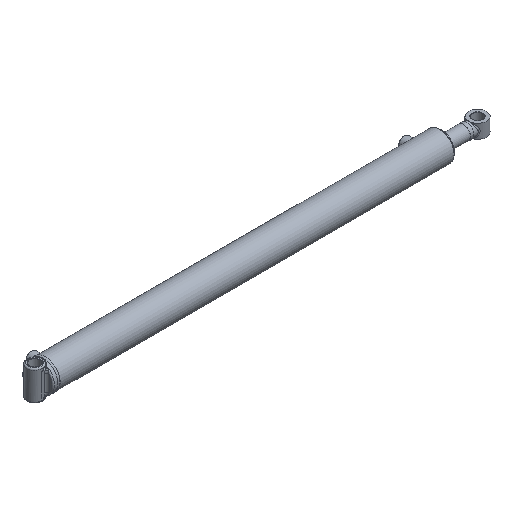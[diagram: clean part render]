
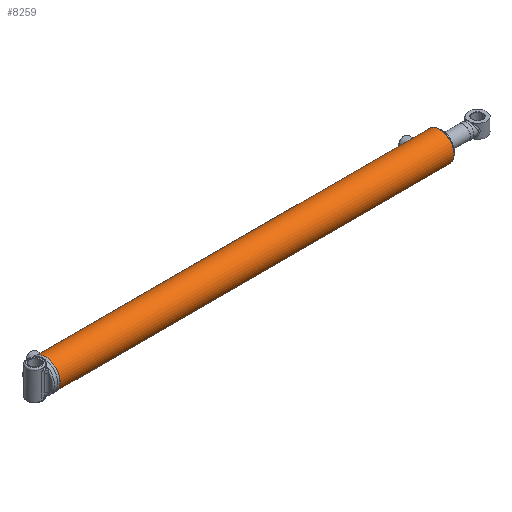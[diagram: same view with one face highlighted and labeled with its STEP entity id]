
A CAD part, isometric view. The second image highlights one B-rep face of the part: STEP entity #8259.
In plain terms, the highlighted cylindrical face has radius 36.513 mm (diameter 73.025 mm), a full revolution.
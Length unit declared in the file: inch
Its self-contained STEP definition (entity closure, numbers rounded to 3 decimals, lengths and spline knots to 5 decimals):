
#713=B_SPLINE_CURVE_WITH_KNOTS('',3,(#12235,#12236,#12237,#12238,#12239,
#12240,#12241,#12242,#12243,#12244),.UNSPECIFIED.,.F.,.F.,(4,2,2,2,4),(0.,
0.17962,0.35924,0.53885,0.71847),
 .UNSPECIFIED.);
#714=B_SPLINE_CURVE_WITH_KNOTS('',3,(#12245,#12246,#12247,#12248,#12249,
#12250,#12251,#12252,#12253,#12254,#12255,#12256,#12257,#12258,#12259,#12260,
#12261,#12262,#12263,#12264,#12265,#12266,#12267,#12268,#12269,#12270),
 .UNSPECIFIED.,.F.,.F.,(4,2,2,2,2,2,2,2,2,2,2,2,4),(0.71847,0.89808,
1.0777,1.25732,1.43694,1.61655,1.79617,
1.97579,2.1554,2.33502,2.51464,2.69425,
2.87387),.UNSPECIFIED.);
#715=B_SPLINE_CURVE_WITH_KNOTS('',3,(#12275,#12276,#12277,#12278,#12279,
#12280,#12281,#12282,#12283,#12284),.UNSPECIFIED.,.F.,.F.,(4,2,2,2,4),(0.,
0.17962,0.35924,0.53885,0.71847),
 .UNSPECIFIED.);
#716=B_SPLINE_CURVE_WITH_KNOTS('',3,(#12285,#12286,#12287,#12288,#12289,
#12290,#12291,#12292,#12293,#12294,#12295,#12296,#12297,#12298,#12299,#12300,
#12301,#12302,#12303,#12304,#12305,#12306,#12307,#12308,#12309,#12310),
 .UNSPECIFIED.,.F.,.F.,(4,2,2,2,2,2,2,2,2,2,2,2,4),(0.71847,0.89808,
1.0777,1.25732,1.43694,1.61655,1.79617,
1.97579,2.1554,2.33502,2.51464,2.69425,
2.87387),.UNSPECIFIED.);
#1063=FACE_BOUND('',#2630,.T.);
#1064=FACE_BOUND('',#2631,.T.);
#1342=LINE('',#12338,#1685);
#1685=VECTOR('',#10083,1.4375);
#2025=CYLINDRICAL_SURFACE('',#9126,1.4375);
#2115=FACE_OUTER_BOUND('',#2629,.T.);
#2629=EDGE_LOOP('',(#5794,#5795,#5796,#5797,#5798,#5799));
#2630=EDGE_LOOP('',(#5800,#5801));
#2631=EDGE_LOOP('',(#5802,#5803));
#3228=CIRCLE('',#9123,1.4375);
#3230=CIRCLE('',#9125,1.4375);
#3231=CIRCLE('',#9127,1.4375);
#3232=CIRCLE('',#9128,1.4375);
#3701=VERTEX_POINT('',#12232);
#3702=VERTEX_POINT('',#12234);
#3703=VERTEX_POINT('',#12272);
#3704=VERTEX_POINT('',#12274);
#3711=VERTEX_POINT('',#12331);
#3712=VERTEX_POINT('',#12332);
#3713=VERTEX_POINT('',#12337);
#3714=VERTEX_POINT('',#12339);
#4507=EDGE_CURVE('',#3702,#3701,#713,.T.);
#4508=EDGE_CURVE('',#3701,#3702,#714,.T.);
#4510=EDGE_CURVE('',#3704,#3703,#715,.T.);
#4511=EDGE_CURVE('',#3703,#3704,#716,.T.);
#4521=EDGE_CURVE('',#3711,#3712,#3228,.T.);
#4523=EDGE_CURVE('',#3712,#3711,#3230,.T.);
#4524=EDGE_CURVE('',#3711,#3713,#1342,.T.);
#4525=EDGE_CURVE('',#3714,#3713,#3231,.T.);
#4526=EDGE_CURVE('',#3713,#3714,#3232,.T.);
#5794=ORIENTED_EDGE('',*,*,#4521,.F.);
#5795=ORIENTED_EDGE('',*,*,#4524,.T.);
#5796=ORIENTED_EDGE('',*,*,#4525,.F.);
#5797=ORIENTED_EDGE('',*,*,#4526,.F.);
#5798=ORIENTED_EDGE('',*,*,#4524,.F.);
#5799=ORIENTED_EDGE('',*,*,#4523,.F.);
#5800=ORIENTED_EDGE('',*,*,#4507,.T.);
#5801=ORIENTED_EDGE('',*,*,#4508,.T.);
#5802=ORIENTED_EDGE('',*,*,#4510,.T.);
#5803=ORIENTED_EDGE('',*,*,#4511,.T.);
#8259=ADVANCED_FACE('',(#2115,#1063,#1064),#2025,.T.);
#9123=AXIS2_PLACEMENT_3D('',#12333,#10075,#10076);
#9125=AXIS2_PLACEMENT_3D('',#12335,#10079,#10080);
#9126=AXIS2_PLACEMENT_3D('',#12336,#10081,#10082);
#9127=AXIS2_PLACEMENT_3D('',#12340,#10084,#10085);
#9128=AXIS2_PLACEMENT_3D('',#12341,#10086,#10087);
#10075=DIRECTION('center_axis',(1.,0.,0.));
#10076=DIRECTION('ref_axis',(0.,-1.,0.));
#10079=DIRECTION('center_axis',(1.,0.,0.));
#10080=DIRECTION('ref_axis',(0.,-1.,0.));
#10081=DIRECTION('center_axis',(1.,0.,0.));
#10082=DIRECTION('ref_axis',(0.,-1.,0.));
#10083=DIRECTION('',(-1.,0.,0.));
#10084=DIRECTION('center_axis',(-1.,0.,0.));
#10085=DIRECTION('ref_axis',(0.,-1.,0.));
#10086=DIRECTION('center_axis',(-1.,0.,0.));
#10087=DIRECTION('ref_axis',(0.,-1.,0.));
#12232=CARTESIAN_POINT('',(0.5925,0.,1.4375));
#12234=CARTESIAN_POINT('',(0.78,-0.1875,1.42522));
#12235=CARTESIAN_POINT('Ctrl Pts',(0.78,-0.1875,1.42522));
#12236=CARTESIAN_POINT('Ctrl Pts',(0.75643,-0.1875,1.42522));
#12237=CARTESIAN_POINT('Ctrl Pts',(0.7313,-0.18278,
1.42586));
#12238=CARTESIAN_POINT('Ctrl Pts',(0.68512,-0.16364,
1.42819));
#12239=CARTESIAN_POINT('Ctrl Pts',(0.66405,-0.14921,
1.42983));
#12240=CARTESIAN_POINT('Ctrl Pts',(0.63079,-0.11595,
1.43291));
#12241=CARTESIAN_POINT('Ctrl Pts',(0.61636,-0.09488,
1.43455));
#12242=CARTESIAN_POINT('Ctrl Pts',(0.59722,-0.0487,
1.43686));
#12243=CARTESIAN_POINT('Ctrl Pts',(0.5925,-0.02357,1.4375));
#12244=CARTESIAN_POINT('Ctrl Pts',(0.5925,0.,1.4375));
#12245=CARTESIAN_POINT('Ctrl Pts',(0.5925,0.,1.4375));
#12246=CARTESIAN_POINT('Ctrl Pts',(0.5925,0.02357,1.4375));
#12247=CARTESIAN_POINT('Ctrl Pts',(0.59722,0.0487,
1.43686));
#12248=CARTESIAN_POINT('Ctrl Pts',(0.61636,0.09488,
1.43455));
#12249=CARTESIAN_POINT('Ctrl Pts',(0.63079,0.11595,
1.43291));
#12250=CARTESIAN_POINT('Ctrl Pts',(0.66405,0.14921,
1.42983));
#12251=CARTESIAN_POINT('Ctrl Pts',(0.68512,0.16364,
1.42819));
#12252=CARTESIAN_POINT('Ctrl Pts',(0.7313,0.18278,
1.42586));
#12253=CARTESIAN_POINT('Ctrl Pts',(0.75643,0.1875,1.42522));
#12254=CARTESIAN_POINT('Ctrl Pts',(0.80357,0.1875,1.42522));
#12255=CARTESIAN_POINT('Ctrl Pts',(0.8287,0.18278,
1.42586));
#12256=CARTESIAN_POINT('Ctrl Pts',(0.87488,0.16364,
1.42819));
#12257=CARTESIAN_POINT('Ctrl Pts',(0.89595,0.14921,
1.42983));
#12258=CARTESIAN_POINT('Ctrl Pts',(0.92921,0.11595,
1.43291));
#12259=CARTESIAN_POINT('Ctrl Pts',(0.94364,0.09488,
1.43455));
#12260=CARTESIAN_POINT('Ctrl Pts',(0.96278,0.0487,
1.43686));
#12261=CARTESIAN_POINT('Ctrl Pts',(0.9675,0.02357,1.4375));
#12262=CARTESIAN_POINT('Ctrl Pts',(0.9675,-0.02357,1.4375));
#12263=CARTESIAN_POINT('Ctrl Pts',(0.96278,-0.0487,
1.43686));
#12264=CARTESIAN_POINT('Ctrl Pts',(0.94364,-0.09488,
1.43455));
#12265=CARTESIAN_POINT('Ctrl Pts',(0.92921,-0.11595,
1.43291));
#12266=CARTESIAN_POINT('Ctrl Pts',(0.89595,-0.14921,
1.42983));
#12267=CARTESIAN_POINT('Ctrl Pts',(0.87488,-0.16364,
1.42819));
#12268=CARTESIAN_POINT('Ctrl Pts',(0.8287,-0.18278,
1.42586));
#12269=CARTESIAN_POINT('Ctrl Pts',(0.80357,-0.1875,1.42522));
#12270=CARTESIAN_POINT('Ctrl Pts',(0.78,-0.1875,1.42522));
#12272=CARTESIAN_POINT('',(37.6095,0.,1.4375));
#12274=CARTESIAN_POINT('',(37.797,-0.1875,1.42522));
#12275=CARTESIAN_POINT('Ctrl Pts',(37.797,-0.1875,1.42522));
#12276=CARTESIAN_POINT('Ctrl Pts',(37.77343,-0.1875,
1.42522));
#12277=CARTESIAN_POINT('Ctrl Pts',(37.7483,-0.18278,
1.42586));
#12278=CARTESIAN_POINT('Ctrl Pts',(37.70212,-0.16364,
1.42819));
#12279=CARTESIAN_POINT('Ctrl Pts',(37.68105,-0.14921,
1.42983));
#12280=CARTESIAN_POINT('Ctrl Pts',(37.64779,-0.11595,1.43291));
#12281=CARTESIAN_POINT('Ctrl Pts',(37.63336,-0.09488,
1.43455));
#12282=CARTESIAN_POINT('Ctrl Pts',(37.61422,-0.0487,
1.43686));
#12283=CARTESIAN_POINT('Ctrl Pts',(37.6095,-0.02357,1.4375));
#12284=CARTESIAN_POINT('Ctrl Pts',(37.6095,0.,1.4375));
#12285=CARTESIAN_POINT('Ctrl Pts',(37.6095,0.,1.4375));
#12286=CARTESIAN_POINT('Ctrl Pts',(37.6095,0.02357,1.4375));
#12287=CARTESIAN_POINT('Ctrl Pts',(37.61422,0.0487,
1.43686));
#12288=CARTESIAN_POINT('Ctrl Pts',(37.63336,0.09488,
1.43455));
#12289=CARTESIAN_POINT('Ctrl Pts',(37.64779,0.11595,1.43291));
#12290=CARTESIAN_POINT('Ctrl Pts',(37.68105,0.14921,1.42983));
#12291=CARTESIAN_POINT('Ctrl Pts',(37.70212,0.16364,1.42819));
#12292=CARTESIAN_POINT('Ctrl Pts',(37.7483,0.18278,1.42586));
#12293=CARTESIAN_POINT('Ctrl Pts',(37.77343,0.1875,1.42522));
#12294=CARTESIAN_POINT('Ctrl Pts',(37.82057,0.1875,1.42522));
#12295=CARTESIAN_POINT('Ctrl Pts',(37.8457,0.18278,1.42586));
#12296=CARTESIAN_POINT('Ctrl Pts',(37.89188,0.16364,1.42819));
#12297=CARTESIAN_POINT('Ctrl Pts',(37.91295,0.14921,1.42983));
#12298=CARTESIAN_POINT('Ctrl Pts',(37.94621,0.11595,1.43291));
#12299=CARTESIAN_POINT('Ctrl Pts',(37.96064,0.09488,
1.43455));
#12300=CARTESIAN_POINT('Ctrl Pts',(37.97978,0.0487,
1.43686));
#12301=CARTESIAN_POINT('Ctrl Pts',(37.9845,0.02357,1.4375));
#12302=CARTESIAN_POINT('Ctrl Pts',(37.9845,-0.02357,1.4375));
#12303=CARTESIAN_POINT('Ctrl Pts',(37.97978,-0.0487,
1.43686));
#12304=CARTESIAN_POINT('Ctrl Pts',(37.96064,-0.09488,
1.43455));
#12305=CARTESIAN_POINT('Ctrl Pts',(37.94621,-0.11595,1.43291));
#12306=CARTESIAN_POINT('Ctrl Pts',(37.91295,-0.14921,
1.42983));
#12307=CARTESIAN_POINT('Ctrl Pts',(37.89188,-0.16364,
1.42819));
#12308=CARTESIAN_POINT('Ctrl Pts',(37.8457,-0.18278,
1.42586));
#12309=CARTESIAN_POINT('Ctrl Pts',(37.82057,-0.1875,
1.42522));
#12310=CARTESIAN_POINT('Ctrl Pts',(37.797,-0.1875,1.42522));
#12331=CARTESIAN_POINT('',(39.227,1.4375,0.));
#12332=CARTESIAN_POINT('',(39.227,0.,-1.4375));
#12333=CARTESIAN_POINT('Origin',(39.227,0.,0.));
#12335=CARTESIAN_POINT('Origin',(39.227,0.,0.));
#12336=CARTESIAN_POINT('Origin',(0.,0.,0.));
#12337=CARTESIAN_POINT('',(0.09382,1.4375,0.));
#12338=CARTESIAN_POINT('',(0.,1.4375,0.));
#12339=CARTESIAN_POINT('',(0.09382,0.,1.4375));
#12340=CARTESIAN_POINT('Origin',(0.09382,0.,0.));
#12341=CARTESIAN_POINT('Origin',(0.09382,0.,0.));
